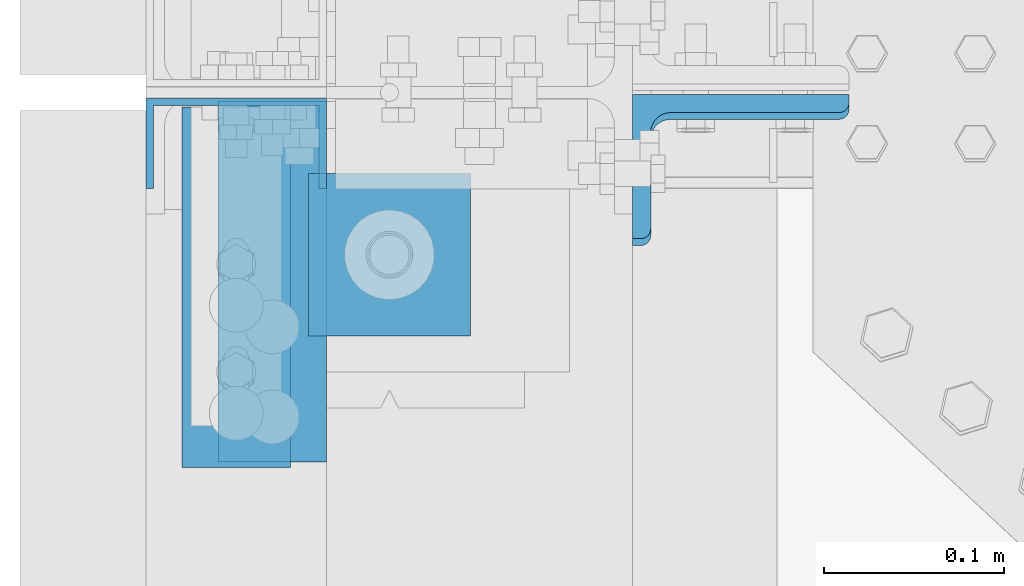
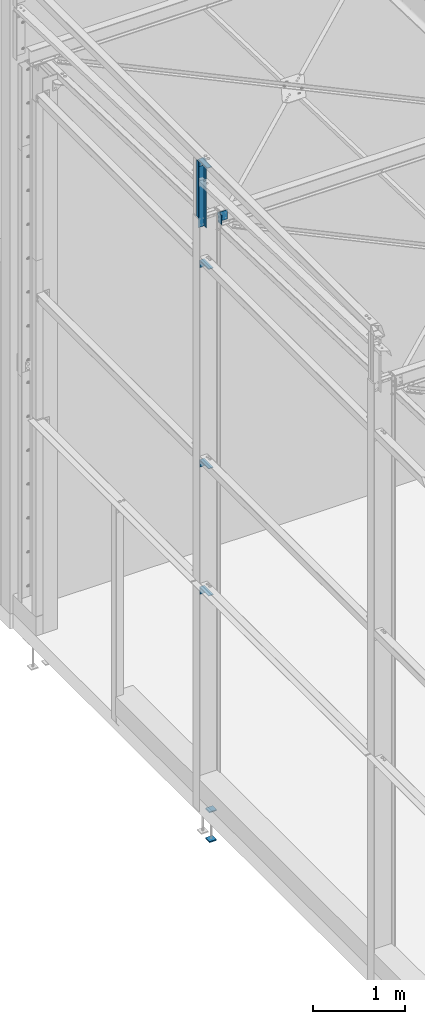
# One storey, part 74 of 362: 7 beams, 1 member, 7 elements without a shape of their own.
"""IFC2X3 building model written with IfcOpenShell, lengths in millimetres."""

from ifc_helpers import new_model, si_unit, frame, origin_with_axes, origin_2d_with_axis, place, context, subcontext, project, spatial, polyline, l_section, u_section, outline, extrude, boolean, material, type_object, element, aggregate, save


model = new_model("IFC2X3")

# Units and contexts
model_context = context("Model", 3, precision=1e-05, world=origin_with_axes())
body_context = subcontext(model_context, "Body", "Model", "MODEL_VIEW")
ifc_project = project(units=[si_unit("LENGTHUNIT", "METRE", prefix="MILLI"), si_unit("AREAUNIT", "SQUARE_METRE"), si_unit("VOLUMEUNIT", "CUBIC_METRE"), si_unit("MASSUNIT", "GRAM", prefix="KILO"), si_unit("TIMEUNIT", "SECOND"), si_unit("PLANEANGLEUNIT", "RADIAN"), si_unit("SOLIDANGLEUNIT", "STERADIAN"), si_unit("THERMODYNAMICTEMPERATUREUNIT", "DEGREE_CELSIUS"), si_unit("LUMINOUSINTENSITYUNIT", "LUMEN")], contexts=[model_context])

# Site, building, storey
site_placement = place(None, origin_with_axes())
site = spatial("IfcSite", under=ifc_project, at=site_placement, Name="Undefined", CompositionType="ELEMENT")
building_placement = place(site_placement, origin_with_axes())
building = spatial("IfcBuilding", under=site, at=building_placement, Name="Undefined", CompositionType="ELEMENT")
storey_placement = place(building_placement, origin_with_axes())
storey = spatial("IfcBuildingStorey", under=building, at=storey_placement, Name="Undefined", CompositionType="ELEMENT", Elevation=0.0)

# Assembly, beam
assembly_1_placement = place(storey_placement, origin_with_axes())
assembly_1 = element("IfcElementAssembly", 1, at=assembly_1_placement, inside=storey, AssemblyPlace="NOTDEFINED", PredefinedType="NOTDEFINED")
ifc_material = material(Name="Undefined/S235-E24")
beam_type_1 = type_object("IfcBeamType", Name="UPF-100*50*4", PredefinedType="NOTDEFINED")
beam_1_placement = place(assembly_1_placement, frame((-130.000001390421, 11371.7000000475, 8445.0), z_axis=(1.0, 0.0, 0.0), x_axis=(0.0, 0.0, -1.0)))
beam_1 = element("IfcBeam", 2, at=beam_1_placement, type_object=beam_type_1, material=ifc_material, Name="BAIONNETTE", ObjectType="UPF-100*50*4", context=body_context, shape_type="CSG", body=[
    boolean("DIFFERENCE", extrude(u_section(Depth=100.0, FlangeWidth=50.0, WebThickness=4.0, FlangeThickness=4.0, at=origin_2d_with_axis()), frame((909.998684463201, 0.0, 0.0), z_axis=(-1.0, 0.0, 0.0), x_axis=(0.0, -1.0, 0.0)), (0.0, 0.0, 1.0), 910.0), extrude(outline(polyline([(0.0, 0.0), (19.9999999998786, -3.63797880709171e-12), (19.9999939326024, 170.0), (-6.06739681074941e-06, 170.0), (0.0, 0.0)])), frame((739.998684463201, -27.5, -50.0000000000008), z_axis=(0.0, 1.0, 0.0), x_axis=(0.0, 0.0, 1.0)), (0.0, 0.0, 1.0), 55.0)),
])
aggregate(assembly_1, [beam_1])

assembly_2_placement = place(storey_placement, origin_with_axes())
assembly_2 = element("IfcElementAssembly", 3, at=assembly_2_placement, inside=storey, AssemblyPlace="NOTDEFINED", PredefinedType="NOTDEFINED")
beam_type_2 = type_object("IfcBeamType", Name="L200*100*10", PredefinedType="NOTDEFINED")
beam_2_placement = place(assembly_2_placement, frame((-159.999999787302, 11292.0, 8400.0), z_axis=(0.0, -1.0, 0.0), x_axis=(1.0, 0.0, 0.0)))
beam_2 = element("IfcBeam", 4, at=beam_2_placement, type_object=beam_type_2, material=ifc_material, Name="ATTACHE", ObjectType="L200*100*10", context=body_context, shape_type="SweptSolid", body=[
    extrude(l_section(Depth=200.0, Width=100.0, Thickness=10.0, FilletRadius=15.0, EdgeRadius=7.5, at=origin_2d_with_axis()), frame((60.0, 0.0, 0.0), z_axis=(-1.0, 0.0, 0.0), x_axis=(0.0, -1.0, 0.0)), (0.0, 0.0, 1.0), 60.0),
])
aggregate(assembly_2, [beam_2])

assembly_3_placement = place(storey_placement, origin_with_axes())
assembly_3 = element("IfcElementAssembly", 5, at=assembly_3_placement, inside=storey, AssemblyPlace="NOTDEFINED", PredefinedType="NOTDEFINED")
beam_3_placement = place(assembly_3_placement, frame((-140.000006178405, 11295.0000004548, 2709.9999839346), z_axis=(0.0, -1.0, 0.0), x_axis=(1.0, 0.0, 0.0)))
beam_3 = element("IfcBeam", 6, at=beam_3_placement, type_object=beam_type_2, material=ifc_material, Name="ATTACHE", ObjectType="L200*100*10", context=body_context, shape_type="SweptSolid", body=[
    extrude(l_section(Depth=200.0, Width=100.0, Thickness=10.0, FilletRadius=15.0, EdgeRadius=7.5, at=origin_2d_with_axis()), frame((60.0, 0.0, 0.0), z_axis=(-1.0, 0.0, 0.0), x_axis=(0.0, -1.0, 0.0)), (0.0, 0.0, 1.0), 60.0),
])
aggregate(assembly_3, [beam_3])

assembly_4_placement = place(storey_placement, origin_with_axes())
assembly_4 = element("IfcElementAssembly", 7, at=assembly_4_placement, inside=storey, AssemblyPlace="NOTDEFINED", PredefinedType="NOTDEFINED")
beam_4_placement = place(assembly_4_placement, frame((-140.000006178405, 11295.0000004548, 4399.99998404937), z_axis=(0.0, -1.0, 0.0), x_axis=(1.0, 0.0, 0.0)))
beam_4 = element("IfcBeam", 8, at=beam_4_placement, type_object=beam_type_2, material=ifc_material, Name="ATTACHE", ObjectType="L200*100*10", context=body_context, shape_type="SweptSolid", body=[
    extrude(l_section(Depth=200.0, Width=100.0, Thickness=10.0, FilletRadius=15.0, EdgeRadius=7.5, at=origin_2d_with_axis()), frame((60.0, 0.0, 0.0), z_axis=(-1.0, 0.0, 0.0), x_axis=(0.0, -1.0, 0.0)), (0.0, 0.0, 1.0), 60.0),
])
aggregate(assembly_4, [beam_4])

assembly_5_placement = place(storey_placement, origin_with_axes())
assembly_5 = element("IfcElementAssembly", 9, at=assembly_5_placement, inside=storey, AssemblyPlace="NOTDEFINED", PredefinedType="NOTDEFINED")
beam_5_placement = place(assembly_5_placement, frame((-140.000006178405, 11295.0000004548, 7050.0), z_axis=(0.0, -1.0, 0.0), x_axis=(1.0, 0.0, 0.0)))
beam_5 = element("IfcBeam", 10, at=beam_5_placement, type_object=beam_type_2, material=ifc_material, Name="ATTACHE", ObjectType="L200*100*10", context=body_context, shape_type="SweptSolid", body=[
    extrude(l_section(Depth=200.0, Width=100.0, Thickness=10.0, FilletRadius=15.0, EdgeRadius=7.5, at=origin_2d_with_axis()), frame((60.0, 0.0, 0.0), z_axis=(-1.0, 0.0, 0.0), x_axis=(0.0, -1.0, 0.0)), (0.0, 0.0, 1.0), 60.0),
])
aggregate(assembly_5, [beam_5])

# Assembly, member
assembly_6_placement = place(storey_placement, origin_with_axes())
assembly_6 = element("IfcElementAssembly", 11, at=assembly_6_placement, inside=storey, AssemblyPlace="NOTDEFINED", PredefinedType="NOTDEFINED")
member_type = type_object("IfcMemberType", Name="L120*80*10", PredefinedType="NOTDEFINED")
member_placement = place(assembly_6_placement, frame((149.99999999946, 11358.9063916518, 7653.00871666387), z_axis=(1.0, 0.0, 0.0), x_axis=(-1.05403257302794e-09, -0.0314112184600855, -0.999506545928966)))
member = element("IfcMember", 12, at=member_placement, type_object=member_type, material=ifc_material, Name="ATTACHE", ObjectType="L120*80*10", context=body_context, shape_type="SweptSolid", body=[
    extrude(l_section(Depth=120.0, Width=80.0, Thickness=10.0, FilletRadius=11.0, EdgeRadius=5.5, at=origin_2d_with_axis()), frame((120.0, 0.0, 0.0), z_axis=(-1.0, 0.0, 0.0), x_axis=(0.0, -1.0, 0.0)), (0.0, 0.0, 1.0), 120.0),
])
aggregate(assembly_6, [member])

# Assembly, beams
assembly_7_placement = place(storey_placement, origin_with_axes())
assembly_7 = element("IfcElementAssembly", 13, at=assembly_7_placement, inside=storey, Name="PRESCELLEMENT PS24", AssemblyPlace="NOTDEFINED", PredefinedType="NOTDEFINED")
beam_type_3 = type_object("IfcBeamType", Name="PL15*90", PredefinedType="NOTDEFINED")
beam_6_placement = place(assembly_7_placement, frame((0.0, 11354.9971504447, -177.5), z_axis=(0.0, 0.0, 1.0), x_axis=(-1.0, 0.0, 0.0)))
beam_6 = element("IfcBeam", 14, at=beam_6_placement, type_object=beam_type_3, material=ifc_material, Name="PLAQUETTE", ObjectType="PL15*90", context=body_context, shape_type="SweptSolid", body=[
    extrude(outline(polyline([(0.0, 0.0), (90.0, 0.0), (90.0, 90.0), (0.0, 90.0), (0.0, 0.0)])), frame((0.0, 0.0, -7.5), z_axis=(0.0, 0.0, 1.0), x_axis=(1.0, 0.0, 0.0)), (0.0, 0.0, 1.0), 15.0),
])
beam_7_placement = place(assembly_7_placement, frame((0.0, 11354.9971504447, -572.5), z_axis=(0.0, 0.0, 1.0), x_axis=(-1.0, 0.0, 0.0)))
beam_7 = element("IfcBeam", 15, at=beam_7_placement, type_object=beam_type_3, material=ifc_material, Name="PLAQUETTE", ObjectType="PL15*90", context=body_context, shape_type="SweptSolid", body=[
    extrude(outline(polyline([(0.0, 0.0), (90.0, 0.0), (90.0, 90.0), (0.0, 90.0), (0.0, 0.0)])), frame((0.0, 0.0, -7.5), z_axis=(0.0, 0.0, 1.0), x_axis=(1.0, 0.0, 0.0)), (0.0, 0.0, 1.0), 15.0),
])
aggregate(assembly_7, [beam_6, beam_7])

save(model, "model.ifc")
